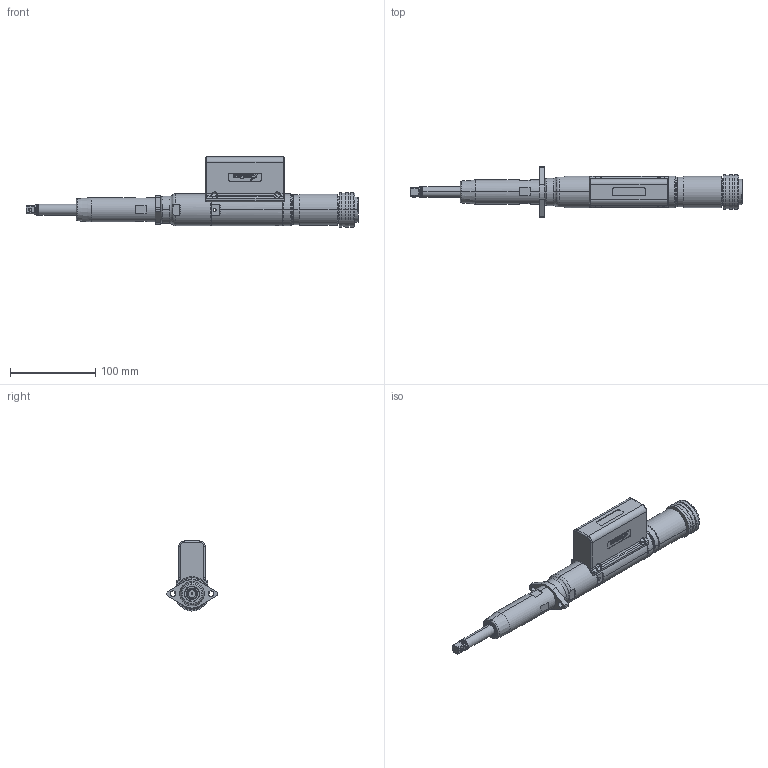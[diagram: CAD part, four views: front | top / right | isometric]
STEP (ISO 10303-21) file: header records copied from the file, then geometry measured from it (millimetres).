
FILE_DESCRIPTION (( 'STEP AP203' ), '1' );
FILE_NAME ('AEF4C12003B, AEF4C12006B.STEP', '2012-06-11T23:38:24', ( 'AIMCO' ), ( 'Microsoft' ), 'SwSTEP 2.0', 'SolidWorks 2012', '' );
FILE_SCHEMA (( 'CONFIG_CONTROL_DESIGN' ));
Length unit declared in the file: inch
Products named in the file (1): AEF4C12003B, AEF4C12006B
Bounding box: 389.17 x 58.71 x 82.09 mm (x, y, z)
Surface area: 67208.3 mm2 (no closed solid volume)
Topology: 0 solids, 77 shells, 737 faces, 3330 edges, 2647 vertices
Faces by surface type: plane 378, cylinder 186, torus 94, cone 71, sphere 4, bspline 4
Entity records: 35400 total; most frequent: CARTESIAN_POINT 9244, DIRECTION 5304, ORIENTED_EDGE 4524, EDGE_CURVE 3322, VERTEX_POINT 2643, LINE 2410, VECTOR 2410, AXIS2_PLACEMENT_3D 1447
